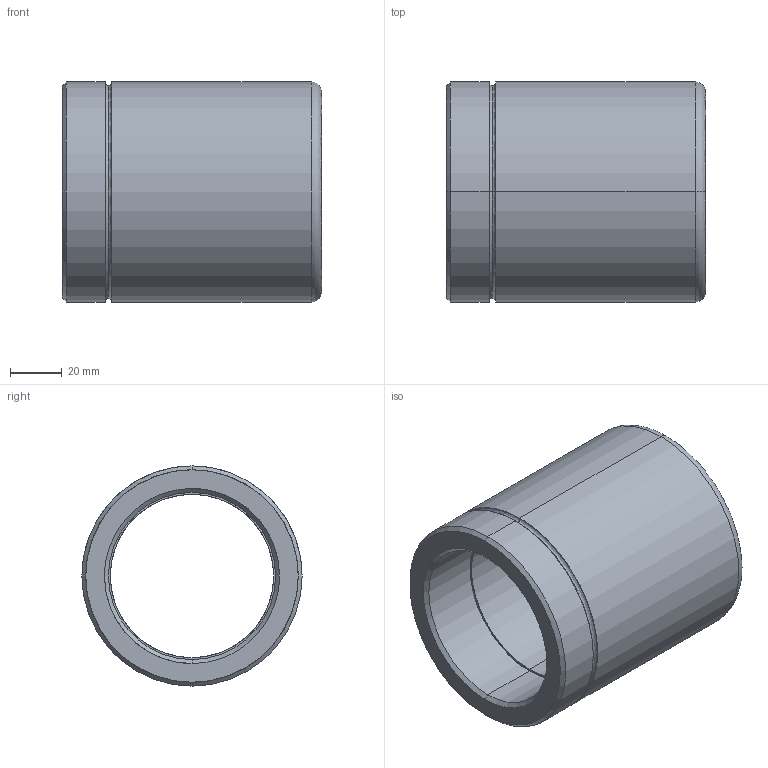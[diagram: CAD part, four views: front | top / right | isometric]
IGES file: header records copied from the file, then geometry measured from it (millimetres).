
Start section: START RECORD GO HERE.
Global section: file name: 347-63 x 100.igs; native system: DASSAULT SYSTEMES CATIA V5 R20 - www.3ds.com; preprocessor: CATIA Version 5 Release 20 ; author: Utente; organization: NB04-ASUS; date: 20210101.104311; units: millimetre
Bounding box: 100 x 85 x 85 mm (x, y, z)
Surface area: 51630.4 mm2 (no closed solid volume)
Topology: 0 solids, 0 shells, 29 faces, 172 edges, 172 vertices
Faces by surface type: revolution 26, plane 3
